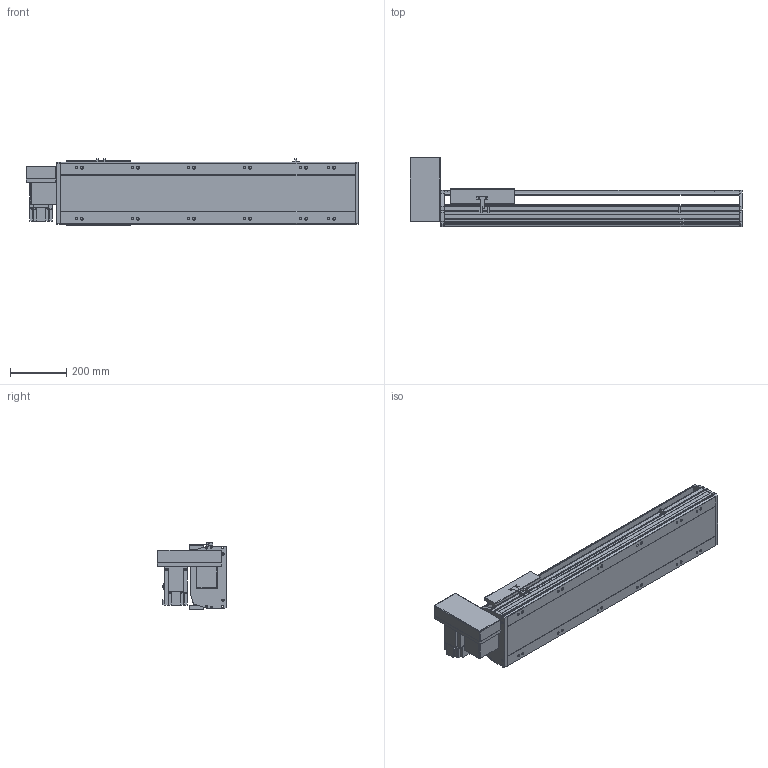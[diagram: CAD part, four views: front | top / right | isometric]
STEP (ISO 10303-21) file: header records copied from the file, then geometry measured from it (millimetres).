
FILE_DESCRIPTION(/* description */ ('STEP AP214'),/* implementation_level */ '2;1');
FILE_NAME(/* name */ 'PBS220-P40-S700-RU-T75-C1-N(0)',/* time_stamp */ '2022-06-13T02:50:44+02:00',/* author */ ('License CC BY-ND 4.0'),/* organization */ ('CADENAS'),/* preprocessor_version */ 'ST-DEVELOPER v18.102',/* originating_system */ 'PARTsolutions',/* authorisation */ ' ');
FILE_SCHEMA (('AUTOMOTIVE_DESIGN {1 0 10303 214 3 1 1}'));
Length unit declared in the file: millimetre
Products named in the file (7): PBS220-P40-S700-RU-T75-C1-N(0); PBS220_sensor; PBS220_plant; PBS220_sliser; T75-p1; PBS220T-RU_motors; PBS220-S700()_body
Assembly tree (8 placements, depth 2):
  PBS220-P40-S700-RU-T75-C1-N(0)
    PBS220_sensor  x3
    PBS220_plant
    PBS220_sliser
    T75-p1
    PBS220T-RU_motors
    PBS220-S700()_body
Bounding box: 1184 x 247 x 238.5 mm (x, y, z)
Volume: 17415589.1 mm3; surface area: 1756976.7 mm2
Topology: 8 solids, 8 shells, 890 faces, 2340 edges, 1522 vertices
Faces by surface type: plane 590, cylinder 264, cone 36
Full cylindrical faces by diameter (mm): 2.013 x4, 4.5 x14, 4.917 x4, 6 x7, 6.647 x8, 8 x10, 8.376 x12, 8.5 x12, 10 x6, 14 x12, 38 x2, 40 x1, 70 x1
Entity records: 25005 total; most frequent: CARTESIAN_POINT 4360, DIRECTION 4347, ORIENTED_EDGE 4034, EDGE_CURVE 2017, AXIS2_PLACEMENT_3D 1503, VERTEX_POINT 1384, LINE 1341, VECTOR 1341
